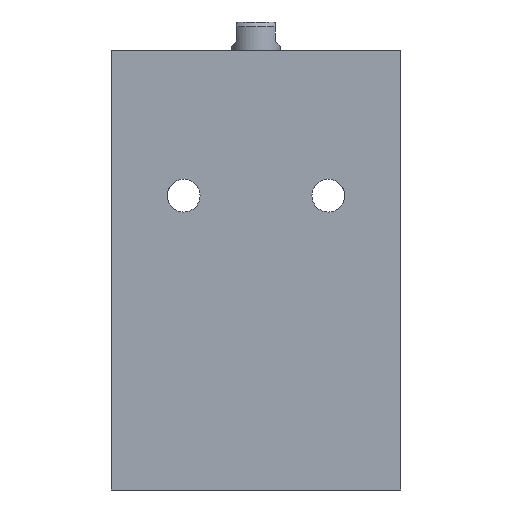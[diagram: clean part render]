
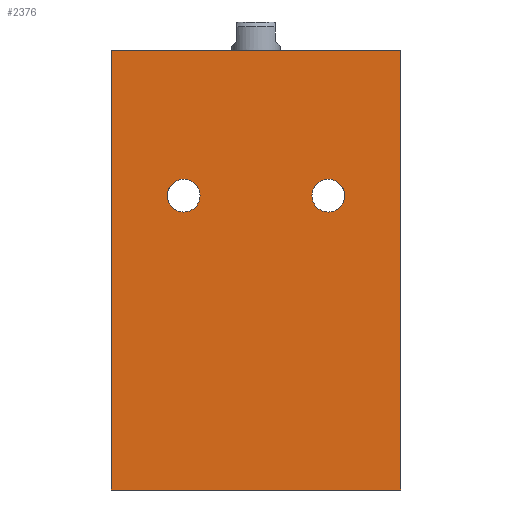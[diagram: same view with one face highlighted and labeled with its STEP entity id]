
A CAD part, front view. The second image highlights one B-rep face of the part: STEP entity #2376.
In plain terms, the highlighted planar face has unit normal (0, -1, 0).
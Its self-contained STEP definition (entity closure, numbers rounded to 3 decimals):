
#44 = FACE_BOUND ( 'NONE', #1456, .T. ) ;
#185 = FACE_OUTER_BOUND ( 'NONE', #1396, .T. ) ;
#194 = VERTEX_POINT ( 'NONE', #534 ) ;
#203 = VERTEX_POINT ( 'NONE', #525 ) ;
#212 = FACE_BOUND ( 'NONE', #324, .T. ) ;
#266 = VERTEX_POINT ( 'NONE', #499 ) ;
#275 = VERTEX_POINT ( 'NONE', #497 ) ;
#276 = VERTEX_POINT ( 'NONE', #496 ) ;
#306 = VERTEX_POINT ( 'NONE', #475 ) ;
#311 = VERTEX_POINT ( 'NONE', #474 ) ;
#324 = EDGE_LOOP ( 'NONE', ( #1337, #1336 ) ) ;
#331 = VERTEX_POINT ( 'NONE', #462 ) ;
#420 = DIRECTION ( 'NONE',  ( 0., 0., 1. ) ) ;
#421 = DIRECTION ( 'NONE',  ( 0., 1., 0. ) ) ;
#422 = CARTESIAN_POINT ( 'NONE',  ( -15., -17.5, 61. ) ) ;
#462 = CARTESIAN_POINT ( 'NONE',  ( 30., -17.5, 91. ) ) ;
#474 = CARTESIAN_POINT ( 'NONE',  ( -30., -17.5, 0. ) ) ;
#475 = CARTESIAN_POINT ( 'NONE',  ( -15., -17.5, 64.4 ) ) ;
#496 = CARTESIAN_POINT ( 'NONE',  ( -30., -17.5, 91. ) ) ;
#497 = CARTESIAN_POINT ( 'NONE',  ( 15., -17.5, 57.6 ) ) ;
#499 = CARTESIAN_POINT ( 'NONE',  ( 15., -17.5, 64.4 ) ) ;
#525 = CARTESIAN_POINT ( 'NONE',  ( 30., -17.5, 0. ) ) ;
#534 = CARTESIAN_POINT ( 'NONE',  ( -15., -17.5, 57.6 ) ) ;
#538 = CARTESIAN_POINT ( 'NONE',  ( 15., -17.5, 61. ) ) ;
#540 = CARTESIAN_POINT ( 'NONE',  ( -30., -17.5, 91. ) ) ;
#541 = DIRECTION ( 'NONE',  ( 0., 0., -1. ) ) ;
#550 = DIRECTION ( 'NONE',  ( 0., 0., -1. ) ) ;
#552 = CARTESIAN_POINT ( 'NONE',  ( 30., -17.5, 91. ) ) ;
#715 = DIRECTION ( 'NONE',  ( 0., 1., 0. ) ) ;
#783 = DIRECTION ( 'NONE',  ( 1., 0., 0. ) ) ;
#923 = DIRECTION ( 'NONE',  ( 0., 0., 1. ) ) ;
#936 = CARTESIAN_POINT ( 'NONE',  ( -30., -17.5, 0. ) ) ;
#964 = DIRECTION ( 'NONE',  ( 1., 0., 0. ) ) ;
#965 = CARTESIAN_POINT ( 'NONE',  ( -30., -17.5, 91. ) ) ;
#966 = DIRECTION ( 'NONE',  ( 0., 0., 1. ) ) ;
#967 = DIRECTION ( 'NONE',  ( 0., 1., 0. ) ) ;
#968 = CARTESIAN_POINT ( 'NONE',  ( -15., -17.5, 61. ) ) ;
#1041 = CIRCLE ( 'NONE', #2016, 3.4 ) ;
#1070 = VECTOR ( 'NONE', #783, 1000. ) ;
#1072 = LINE ( 'NONE', #936, #1070 ) ;
#1078 = VECTOR ( 'NONE', #541, 1000. ) ;
#1081 = LINE ( 'NONE', #540, #1078 ) ;
#1084 = VECTOR ( 'NONE', #964, 1000. ) ;
#1087 = LINE ( 'NONE', #965, #1084 ) ;
#1089 = CIRCLE ( 'NONE', #2038, 3.4 ) ;
#1095 = CIRCLE ( 'NONE', #2033, 3.4 ) ;
#1096 = VECTOR ( 'NONE', #550, 1000. ) ;
#1102 = LINE ( 'NONE', #552, #1096 ) ;
#1203 = CIRCLE ( 'NONE', #2080, 3.4 ) ;
#1329 = ORIENTED_EDGE ( 'NONE', *, *, #2030, .T. ) ;
#1330 = ORIENTED_EDGE ( 'NONE', *, *, #1951, .F. ) ;
#1331 = ORIENTED_EDGE ( 'NONE', *, *, #1902, .F. ) ;
#1332 = ORIENTED_EDGE ( 'NONE', *, *, #2045, .T. ) ;
#1336 = ORIENTED_EDGE ( 'NONE', *, *, #1825, .T. ) ;
#1337 = ORIENTED_EDGE ( 'NONE', *, *, #1947, .T. ) ;
#1338 = ORIENTED_EDGE ( 'NONE', *, *, #2108, .T. ) ;
#1339 = ORIENTED_EDGE ( 'NONE', *, *, #2032, .T. ) ;
#1396 = EDGE_LOOP ( 'NONE', ( #1332, #1331, #1330, #1329 ) ) ;
#1456 = EDGE_LOOP ( 'NONE', ( #1339, #1338 ) ) ;
#1685 = PLANE ( 'NONE',  #1967 ) ;
#1686 = DIRECTION ( 'NONE',  ( 0., 0., 1. ) ) ;
#1687 = CARTESIAN_POINT ( 'NONE',  ( -30., -17.5, 91. ) ) ;
#1692 = DIRECTION ( 'NONE',  ( 0., 1., 0. ) ) ;
#1825 = EDGE_CURVE ( 'NONE', #194, #306, #1203, .T. ) ;
#1902 = EDGE_CURVE ( 'NONE', #331, #203, #1102, .T. ) ;
#1947 = EDGE_CURVE ( 'NONE', #306, #194, #1089, .T. ) ;
#1951 = EDGE_CURVE ( 'NONE', #276, #331, #1087, .T. ) ;
#1967 = AXIS2_PLACEMENT_3D ( 'NONE', #1687, #1692, #1686 ) ;
#2016 = AXIS2_PLACEMENT_3D ( 'NONE', #2136, #2137, #2147 ) ;
#2030 = EDGE_CURVE ( 'NONE', #276, #311, #1081, .T. ) ;
#2032 = EDGE_CURVE ( 'NONE', #266, #275, #1095, .T. ) ;
#2033 = AXIS2_PLACEMENT_3D ( 'NONE', #538, #715, #923 ) ;
#2038 = AXIS2_PLACEMENT_3D ( 'NONE', #968, #967, #966 ) ;
#2045 = EDGE_CURVE ( 'NONE', #311, #203, #1072, .T. ) ;
#2080 = AXIS2_PLACEMENT_3D ( 'NONE', #422, #421, #420 ) ;
#2108 = EDGE_CURVE ( 'NONE', #275, #266, #1041, .T. ) ;
#2136 = CARTESIAN_POINT ( 'NONE',  ( 15., -17.5, 61. ) ) ;
#2137 = DIRECTION ( 'NONE',  ( 0., 1., 0. ) ) ;
#2147 = DIRECTION ( 'NONE',  ( 0., 0., 1. ) ) ;
#2376 = ADVANCED_FACE ( 'NONE', ( #44, #212, #185 ), #1685, .F. ) ;
